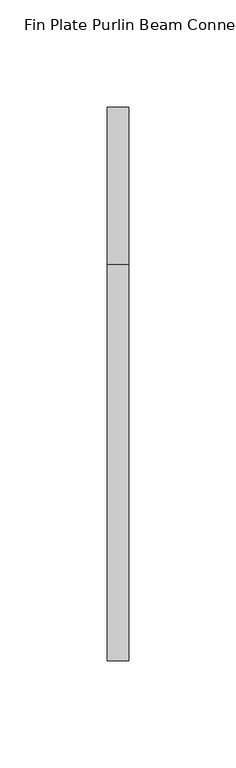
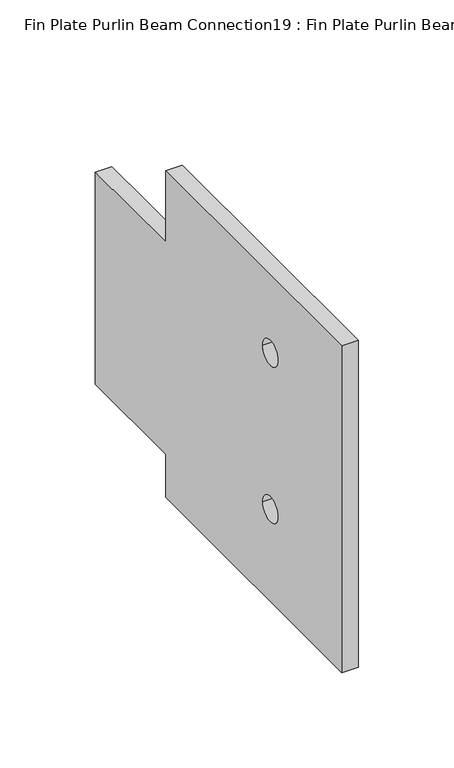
"""IFC4 building model written with IfcOpenShell, lengths in millimetres: proxy geometry, Fin Plate Purlin Beam Connection19 : Fin Plate Purlin Beam Connection."""

from ifc_helpers import new_model, si_unit, point, frame, frame_2d, origin, place, context, project, spatial, polyline, circle_curve, trimmed, segment, composite_curve, outline, extrude, source, transform, mapped, element, save


def fin_plate_purlin_beam_connection19_fin_plate_purlin_beam_04d053e4(model_context):
    return source(origin(), model_context, "Body", "SweptSolid", [
        extrude(outline(polyline([(11048.2549517, 2454.7182916), (10974.6549517, 2454.7182916), (10974.6549517, 2427.0006295), (10790.0549517, 2427.0006295), (10790.0549517, 2635.9566779), (10974.6549517, 2635.9566779), (10974.6549517, 2590.5), (11048.2549517, 2590.5), (11048.2549517, 2454.7182916)]), holes=[composite_curve([segment(trimmed(circle_curve(frame_2d((10865.0549517, 2585.9566779)), 8.0), [point((10873.0549517, 2585.9566779))], [point((10857.0549517, 2585.9566779))], True, "CARTESIAN"), True, "CONTINUOUS"), segment(trimmed(circle_curve(frame_2d((10865.0549517, 2585.9566779)), 8.0), [point((10857.0549517, 2585.9566779))], [point((10873.0549517, 2585.9566779))], True, "CARTESIAN"), True, "CONTINUOUS")], self_intersect=False), composite_curve([segment(trimmed(circle_curve(frame_2d((10865.0549517, 2485.9566779)), 8.0), [point((10873.0549517, 2485.9566779))], [point((10857.0549517, 2485.9566779))], True, "CARTESIAN"), True, "CONTINUOUS"), segment(trimmed(circle_curve(frame_2d((10865.0549517, 2485.9566779)), 8.0), [point((10857.0549517, 2485.9566779))], [point((10873.0549517, 2485.9566779))], True, "CARTESIAN"), True, "CONTINUOUS")], self_intersect=False)]), frame((-29526.0036256, 0.0, 0.0), z_axis=(1.0, 0.0, 0.0), x_axis=(0.0, 1.0, 0.0)), (0.0, 0.0, 1.0), 10.0),
    ])


if __name__ == "__main__":
    model = new_model("IFC4")
    model_context = context("Model", 3, world=origin())
    ifc_project = project(units=[si_unit("LENGTHUNIT", "METRE", prefix="MILLI")], contexts=[model_context])
    site = spatial("IfcSite", under=ifc_project)
    building = spatial("IfcBuilding", under=site)
    placement = place(None, origin())
    fin_plate_purlin_beam_connection19_fin_plate_purlin_beam_shape = fin_plate_purlin_beam_connection19_fin_plate_purlin_beam_04d053e4(model_context)
    element("IfcBuildingElementProxy", 1, Name="Fin Plate Purlin Beam Connection19 : Fin Plate Purlin Beam Connection", ObjectType="Fin Plate Purlin Beam Connection19 : Fin Plate Purlin Beam Connection", at=placement, inside=building, context=model_context, shape_type="MappedRepresentation", body=[
        mapped(fin_plate_purlin_beam_connection19_fin_plate_purlin_beam_shape, transform((0.0, 0.0, 0.0), x_axis=(1.0, 0.0, 0.0), y_axis=(0.0, 1.0, 0.0), z_axis=(0.0, 0.0, 1.0))),
    ])
    save(model, "model.ifc")
